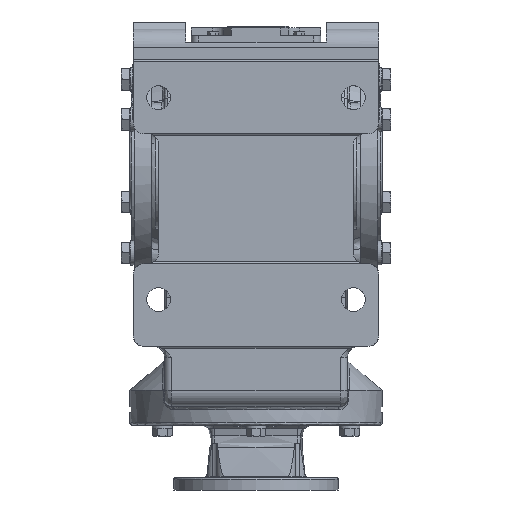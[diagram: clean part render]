
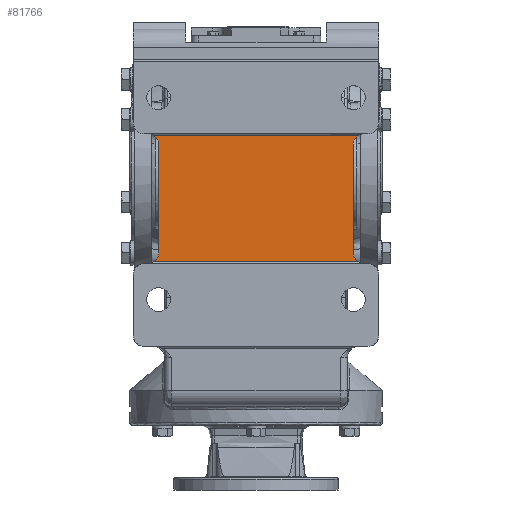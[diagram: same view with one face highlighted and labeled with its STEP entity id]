
A CAD part, front view. The second image highlights one B-rep face of the part: STEP entity #81766.
In plain terms, the highlighted planar face has unit normal (0, -1, 0).
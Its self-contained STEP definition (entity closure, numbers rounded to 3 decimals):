
#1946 = LINE ( 'NONE', #80438, #1947 ) ;
#1947 = VECTOR ( 'NONE', #80439, 1000. ) ;
#1993 = CIRCLE ( 'NONE', #27749, 15. ) ;
#1996 = CIRCLE ( 'NONE', #27748, 15. ) ;
#2001 = LINE ( 'NONE', #80505, #2004 ) ;
#2002 = CIRCLE ( 'NONE', #27750, 15. ) ;
#2004 = VECTOR ( 'NONE', #80504, 1000. ) ;
#2005 = CIRCLE ( 'NONE', #27751, 15. ) ;
#2007 = LINE ( 'NONE', #80512, #2010 ) ;
#2010 = VECTOR ( 'NONE', #80513, 1000. ) ;
#11975 = CARTESIAN_POINT ( 'NONE',  ( 141., -310., 42. ) ) ;
#11987 = CARTESIAN_POINT ( 'NONE',  ( -141., -310., 42. ) ) ;
#12199 = CARTESIAN_POINT ( 'NONE',  ( 141., -310., -132. ) ) ;
#12201 = CARTESIAN_POINT ( 'NONE',  ( -141., -310., -132. ) ) ;
#12207 = CARTESIAN_POINT ( 'NONE',  ( -135., -310., -120. ) ) ;
#12219 = CARTESIAN_POINT ( 'NONE',  ( -135., -310., 30. ) ) ;
#12221 = CARTESIAN_POINT ( 'NONE',  ( 135., -310., -120. ) ) ;
#12225 = CARTESIAN_POINT ( 'NONE',  ( 135., -310., 30. ) ) ;
#13749 = FACE_OUTER_BOUND ( 'NONE', #47011, .T. ) ;
#22705 = AXIS2_PLACEMENT_3D ( 'NONE', #72441, #72447, #72448 ) ;
#23425 = EDGE_CURVE ( 'NONE', #67624, #67618, #53660, .T. ) ;
#27748 = AXIS2_PLACEMENT_3D ( 'NONE', #80506, #80507, #80508 ) ;
#27749 = AXIS2_PLACEMENT_3D ( 'NONE', #80509, #80510, #80511 ) ;
#27750 = AXIS2_PLACEMENT_3D ( 'NONE', #80514, #80515, #80516 ) ;
#27751 = AXIS2_PLACEMENT_3D ( 'NONE', #80519, #80520, #80521 ) ;
#43427 = DIRECTION ( 'NONE',  ( 1., 0., 0. ) ) ;
#43464 = CARTESIAN_POINT ( 'NONE',  ( 621.774, -310., 42. ) ) ;
#47011 = EDGE_LOOP ( 'NONE', ( #84395, #84396, #84397, #84398, #84399, #84400, #84402, #84404 ) ) ;
#53660 = LINE ( 'NONE', #43464, #53683 ) ;
#53683 = VECTOR ( 'NONE', #43427, 1000. ) ;
#67618 = VERTEX_POINT ( 'NONE', #11975 ) ;
#67624 = VERTEX_POINT ( 'NONE', #11987 ) ;
#67760 = VERTEX_POINT ( 'NONE', #12199 ) ;
#67762 = VERTEX_POINT ( 'NONE', #12201 ) ;
#67768 = VERTEX_POINT ( 'NONE', #12207 ) ;
#67780 = VERTEX_POINT ( 'NONE', #12219 ) ;
#67782 = VERTEX_POINT ( 'NONE', #12221 ) ;
#67786 = VERTEX_POINT ( 'NONE', #12225 ) ;
#72441 = CARTESIAN_POINT ( 'NONE',  ( 621.774, -310., -235. ) ) ;
#72443 = PLANE ( 'NONE',  #22705 ) ;
#72447 = DIRECTION ( 'NONE',  ( 0., 1., 0. ) ) ;
#72448 = DIRECTION ( 'NONE',  ( 0., 0., 1. ) ) ;
#80438 = CARTESIAN_POINT ( 'NONE',  ( 621.774, -310., -132. ) ) ;
#80439 = DIRECTION ( 'NONE',  ( -1., 0., 0. ) ) ;
#80504 = DIRECTION ( 'NONE',  ( 0., 0., -1. ) ) ;
#80505 = CARTESIAN_POINT ( 'NONE',  ( 135., -310., 0. ) ) ;
#80506 = CARTESIAN_POINT ( 'NONE',  ( -150., -310., -120. ) ) ;
#80507 = DIRECTION ( 'NONE',  ( 0., 1., 0. ) ) ;
#80508 = DIRECTION ( 'NONE',  ( 0., 0., 1. ) ) ;
#80509 = CARTESIAN_POINT ( 'NONE',  ( 150., -310., -120. ) ) ;
#80510 = DIRECTION ( 'NONE',  ( 0., 1., 0. ) ) ;
#80511 = DIRECTION ( 'NONE',  ( 0., 0., 1. ) ) ;
#80512 = CARTESIAN_POINT ( 'NONE',  ( -135., -310., 0. ) ) ;
#80513 = DIRECTION ( 'NONE',  ( 0., 0., 1. ) ) ;
#80514 = CARTESIAN_POINT ( 'NONE',  ( 150., -310., 30. ) ) ;
#80515 = DIRECTION ( 'NONE',  ( 0., 1., 0. ) ) ;
#80516 = DIRECTION ( 'NONE',  ( 0., 0., -1. ) ) ;
#80519 = CARTESIAN_POINT ( 'NONE',  ( -150., -310., 30. ) ) ;
#80520 = DIRECTION ( 'NONE',  ( 0., 1., 0. ) ) ;
#80521 = DIRECTION ( 'NONE',  ( 0., 0., -1. ) ) ;
#81766 = ADVANCED_FACE ( 'NONE', ( #13749 ), #72443, .F. ) ;
#83594 = EDGE_CURVE ( 'NONE', #67760, #67762, #1946, .T. ) ;
#83642 = EDGE_CURVE ( 'NONE', #67768, #67762, #1996, .T. ) ;
#83644 = EDGE_CURVE ( 'NONE', #67760, #67782, #1993, .T. ) ;
#83646 = EDGE_CURVE ( 'NONE', #67786, #67782, #2001, .T. ) ;
#83648 = EDGE_CURVE ( 'NONE', #67786, #67618, #2002, .T. ) ;
#83650 = EDGE_CURVE ( 'NONE', #67624, #67780, #2005, .T. ) ;
#83652 = EDGE_CURVE ( 'NONE', #67768, #67780, #2007, .T. ) ;
#84395 = ORIENTED_EDGE ( 'NONE', *, *, #83642, .T. ) ;
#84396 = ORIENTED_EDGE ( 'NONE', *, *, #83594, .F. ) ;
#84397 = ORIENTED_EDGE ( 'NONE', *, *, #83644, .T. ) ;
#84398 = ORIENTED_EDGE ( 'NONE', *, *, #83646, .F. ) ;
#84399 = ORIENTED_EDGE ( 'NONE', *, *, #83648, .T. ) ;
#84400 = ORIENTED_EDGE ( 'NONE', *, *, #23425, .F. ) ;
#84402 = ORIENTED_EDGE ( 'NONE', *, *, #83650, .T. ) ;
#84404 = ORIENTED_EDGE ( 'NONE', *, *, #83652, .F. ) ;
